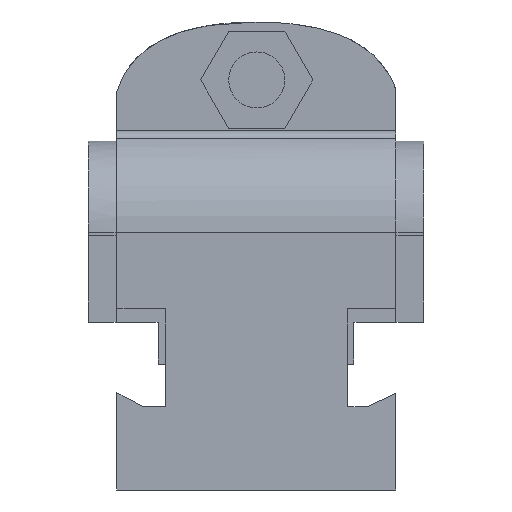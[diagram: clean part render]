
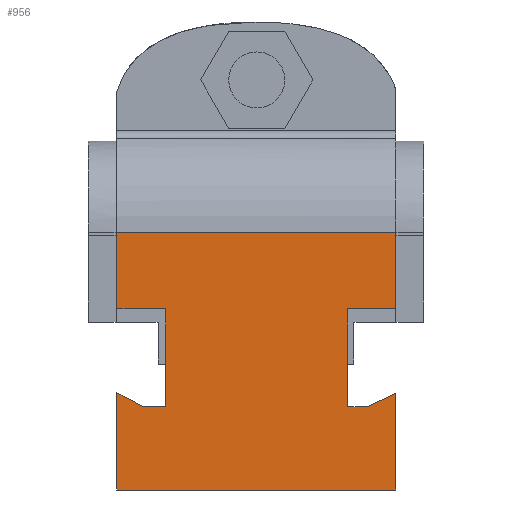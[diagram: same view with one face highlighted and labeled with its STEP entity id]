
A CAD part, left-side view. The second image highlights one B-rep face of the part: STEP entity #956.
In plain terms, the highlighted planar face has unit normal (-1, 0, 0).
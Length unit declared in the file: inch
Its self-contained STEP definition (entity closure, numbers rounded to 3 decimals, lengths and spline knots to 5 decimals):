
#622=EDGE_CURVE('',#1708,#1709,#1710,.T.);
#662=EDGE_CURVE('',#1781,#1782,#1783,.T.);
#678=EDGE_CURVE('',#1807,#1808,#1809,.T.);
#736=EDGE_CURVE('',#1903,#1904,#1905,.T.);
#784=EDGE_CURVE('',#1782,#1978,#1979,.T.);
#956=ADVANCED_FACE('',(#2232),#2233,.T.);
#1020=EDGE_CURVE('',#1978,#1709,#2321,.T.);
#1134=EDGE_CURVE('',#2361,#2378,#2467,.T.);
#1178=EDGE_CURVE('',#2522,#2523,#2524,.T.);
#1226=EDGE_CURVE('',#1904,#2585,#2586,.T.);
#1264=EDGE_CURVE('',#1808,#1781,#2635,.T.);
#1278=EDGE_CURVE('',#2378,#1807,#2654,.T.);
#1294=EDGE_CURVE('',#2585,#2522,#2673,.T.);
#1488=EDGE_CURVE('',#1708,#1903,#2907,.T.);
#1534=EDGE_CURVE('',#2523,#2361,#2957,.T.);
#1708=VERTEX_POINT('',#3190);
#1709=VERTEX_POINT('',#3191);
#1710=LINE('',#3192,#3193);
#1781=VERTEX_POINT('',#3314);
#1782=VERTEX_POINT('',#3315);
#1783=LINE('',#3316,#3317);
#1807=VERTEX_POINT('',#3362);
#1808=VERTEX_POINT('',#3363);
#1809=LINE('',#3364,#3365);
#1903=VERTEX_POINT('',#3534);
#1904=VERTEX_POINT('',#3535);
#1905=LINE('',#3536,#3537);
#1978=VERTEX_POINT('',#3728);
#1979=LINE('',#3729,#3730);
#2232=FACE_OUTER_BOUND('',#4410,.T.);
#2233=PLANE('',#4411);
#2321=LINE('',#4564,#4565);
#2361=VERTEX_POINT('',#4661);
#2378=VERTEX_POINT('',#4691);
#2467=LINE('',#4860,#4861);
#2522=VERTEX_POINT('',#4970);
#2523=VERTEX_POINT('',#4971);
#2524=LINE('',#4972,#4973);
#2585=VERTEX_POINT('',#5108);
#2586=LINE('',#5109,#5110);
#2635=LINE('',#5196,#5197);
#2654=LINE('',#5235,#5236);
#2673=LINE('',#5280,#5281);
#2907=LINE('',#5822,#5823);
#2957=LINE('',#5926,#5927);
#3190=CARTESIAN_POINT('',(0.0,1.24627,1.15024));
#3191=CARTESIAN_POINT('',(0.0,0.,1.15024));
#3192=CARTESIAN_POINT('',(0.0,1.25,1.15024));
#3193=VECTOR('',#6119,1.0);
#3314=CARTESIAN_POINT('',(0.0,0.21527,0.37142));
#3315=CARTESIAN_POINT('',(0.0,0.21527,0.80892));
#3316=CARTESIAN_POINT('',(0.0,0.21527,0.58264));
#3317=VECTOR('',#6147,1.0);
#3362=CARTESIAN_POINT('',(0.0,0.,0.43217));
#3363=CARTESIAN_POINT('',(0.0,0.12731,0.37142));
#3364=CARTESIAN_POINT('',(0.0,0.5122,0.18776));
#3365=VECTOR('',#6164,1.);
#3534=CARTESIAN_POINT('',(0.0,1.24627,0.80892));
#3535=CARTESIAN_POINT('',(0.0,1.02777,0.80892));
#3536=CARTESIAN_POINT('',(0.0,1.19351,0.80892));
#3537=VECTOR('',#6217,1.0);
#3728=CARTESIAN_POINT('',(0.0,0.,0.80892));
#3729=CARTESIAN_POINT('',(0.0,0.67788,0.80892));
#3730=VECTOR('',#6269,1.0);
#4410=EDGE_LOOP('',(#6587,#6588,#6589,#6590,#6591,#6592,#6593,#6594,#6595,#6596,#6597,#6598,#6599,#6600));
#4411=AXIS2_PLACEMENT_3D('',#6601,#6602,#6603);
#4564=CARTESIAN_POINT('',(0.0,0.,1.15024));
#4565=VECTOR('',#6709,1.0);
#4661=CARTESIAN_POINT('',(0.0,1.24627,0.));
#4691=CARTESIAN_POINT('',(0.0,0.,0.));
#4860=CARTESIAN_POINT('',(0.0,1.25,0.));
#4861=VECTOR('',#6798,1.0);
#4970=CARTESIAN_POINT('',(0.0,1.12731,0.37142));
#4971=CARTESIAN_POINT('',(0.0,1.24627,0.43395));
#4972=CARTESIAN_POINT('',(0.0,1.24706,0.43436));
#4973=VECTOR('',#6875,1.0);
#5108=CARTESIAN_POINT('',(0.0,1.02777,0.37142));
#5109=CARTESIAN_POINT('',(0.0,1.02777,0.58264));
#5110=VECTOR('',#6949,1.0);
#5196=CARTESIAN_POINT('',(0.0,0.71064,0.37142));
#5197=VECTOR('',#7015,1.0);
#5235=CARTESIAN_POINT('',(0.0,0.,1.15024));
#5236=VECTOR('',#7049,1.0);
#5280=CARTESIAN_POINT('',(0.0,1.16377,0.37142));
#5281=VECTOR('',#7065,1.0);
#5822=CARTESIAN_POINT('',(0.0,1.24627,0.93454));
#5823=VECTOR('',#7380,1.0);
#5926=CARTESIAN_POINT('',(0.0,1.24627,0.38097));
#5927=VECTOR('',#7424,1.0);
#6119=DIRECTION('',(0.0,-1.0,0.0));
#6147=DIRECTION('',(0.0,0.0,1.0));
#6164=DIRECTION('',(-0.0,0.903,-0.431));
#6217=DIRECTION('',(0.0,-1.0,0.0));
#6269=DIRECTION('',(0.0,-1.0,0.0));
#6587=ORIENTED_EDGE('',*,*,#1534,.T.);
#6588=ORIENTED_EDGE('',*,*,#1134,.T.);
#6589=ORIENTED_EDGE('',*,*,#1278,.T.);
#6590=ORIENTED_EDGE('',*,*,#678,.T.);
#6591=ORIENTED_EDGE('',*,*,#1264,.T.);
#6592=ORIENTED_EDGE('',*,*,#662,.T.);
#6593=ORIENTED_EDGE('',*,*,#784,.T.);
#6594=ORIENTED_EDGE('',*,*,#1020,.T.);
#6595=ORIENTED_EDGE('',*,*,#622,.F.);
#6596=ORIENTED_EDGE('',*,*,#1488,.T.);
#6597=ORIENTED_EDGE('',*,*,#736,.T.);
#6598=ORIENTED_EDGE('',*,*,#1226,.T.);
#6599=ORIENTED_EDGE('',*,*,#1294,.T.);
#6600=ORIENTED_EDGE('',*,*,#1178,.T.);
#6601=CARTESIAN_POINT('',(0.0,1.25,0.57512));
#6602=DIRECTION('',(-1.0,0.0,0.0));
#6603=DIRECTION('',(0.0,0.0,-1.0));
#6709=DIRECTION('',(0.0,0.0,1.0));
#6798=DIRECTION('',(0.0,-1.0,0.0));
#6875=DIRECTION('',(0.0,0.885,0.465));
#6949=DIRECTION('',(0.0,-0.0,-1.0));
#7015=DIRECTION('',(-0.0,1.0,-0.0));
#7049=DIRECTION('',(0.0,0.0,1.0));
#7065=DIRECTION('',(-0.0,1.0,-0.0));
#7380=DIRECTION('',(0.0,-0.0,-1.0));
#7424=DIRECTION('',(0.0,-0.0,-1.0));
